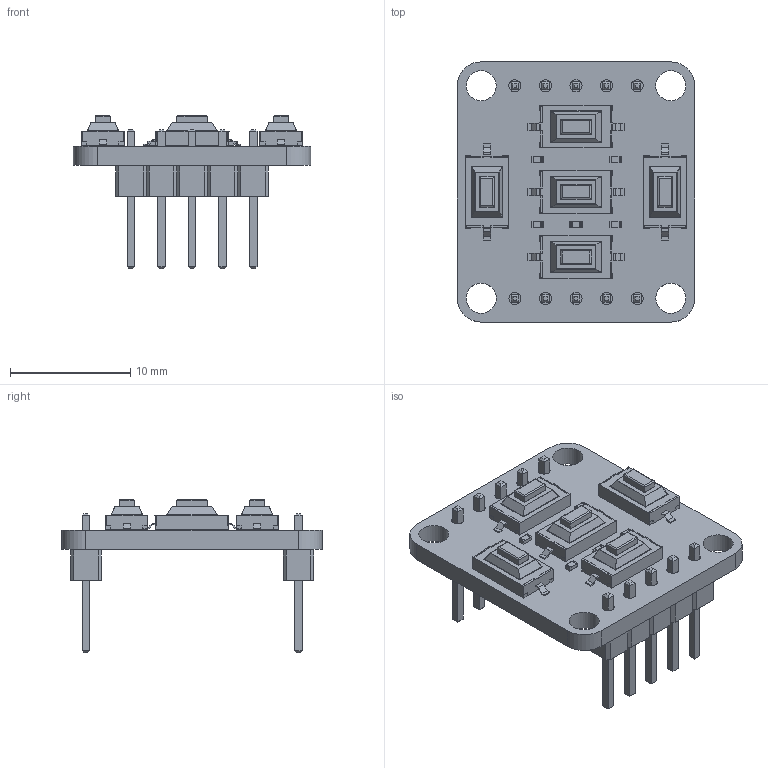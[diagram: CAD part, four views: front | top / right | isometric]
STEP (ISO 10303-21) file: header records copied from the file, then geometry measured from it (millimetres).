
FILE_DESCRIPTION(('KiCad electronic assembly'),'2;1');
FILE_NAME('AXM0016.step','2024-11-12T16:24:49',('Pcbnew'),('Kicad'), 'Open CASCADE STEP processor 7.8','KiCad to STEP converter','Unknown' );
FILE_SCHEMA(('AUTOMOTIVE_DESIGN { 1 0 10303 214 1 1 1 1 }'));
Length unit declared in the file: millimetre
Products named in the file (8): AXM0016 1; SW_SPST_CK_RS282G05A3; R_0402_1005Metric; PinHeader_1x05_P2.54mm_Vertical; PinHeader_1x05_P254mm_Vertical; DPad_PCB
Assembly tree (16 placements, depth 3):
  AXM0016 1
    SW_SPST_CK_RS282G05A3  x5
      SW_SPST_CK_RS282G05A3
    R_0402_1005Metric  x5
      R_0402_1005Metric
    PinHeader_1x05_P2.54mm_Vertical  x2
      PinHeader_1x05_P254mm_Vertical
    DPad_PCB
Bounding box: 19.74 x 21.64 x 12.74 mm (x, y, z)
Volume: 976.2 mm3; surface area: 2063.4 mm2
Topology: 13 solids, 13 shells, 947 faces, 2398 edges, 1552 vertices
Faces by surface type: plane 849, cylinder 98
Full cylindrical faces by diameter (mm): 1 x10, 2.5 x4
Entity records: 10363 total; most frequent: CARTESIAN_POINT 1466, ORIENTED_EDGE 1420, DIRECTION 1374, EDGE_CURVE 710, LINE 646, VECTOR 646, VERTEX_POINT 456, AXIS2_PLACEMENT_3D 364
